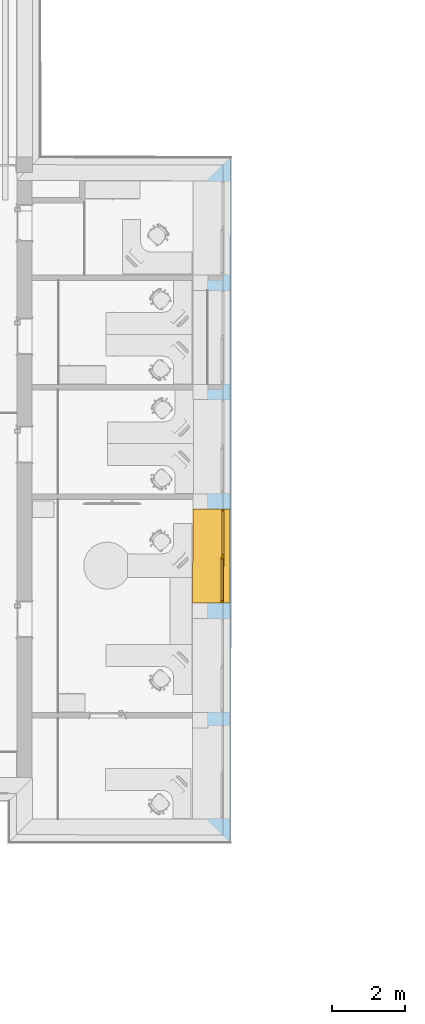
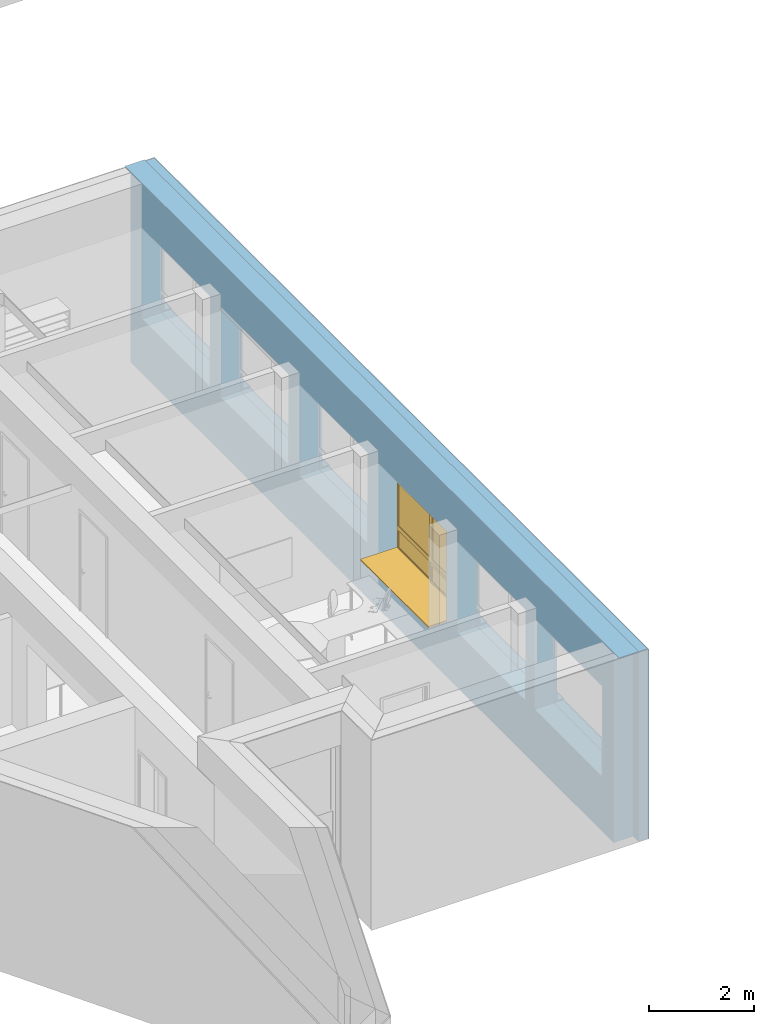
# One storey, part 78 of 194: 1 window, 6 openings, 1 element without a shape of its own, plus 3 elements that do not belong to this part.
"""IFC2X3 building model written with IfcOpenShell, lengths in millimetres."""

from ifc_helpers import new_model, entity, si_unit, converted_unit, derived_unit, money_unit, direction, frame, origin_with_axes, origin_2d_with_axis, place, context, subcontext, project, spatial, polyline, rectangle, outline, extrude, boolean, open_shell, faceted_brep, surface_model, material, type_object, element, fill, aggregate, save


model = new_model("IFC2X3")

# Units and contexts
model_context = context("Model", 3, precision=1e-05, world=origin_with_axes(), true_north=direction((0.0, 1.0)))
body_context = subcontext(model_context, "Body", "Model", "MODEL_VIEW")
ifc_project = project(units=[si_unit("LENGTHUNIT", "METRE", prefix="MILLI"), si_unit("AREAUNIT", "SQUARE_METRE"), si_unit("VOLUMEUNIT", "CUBIC_METRE"), converted_unit("PLANEANGLEUNIT", "DEGREE", entity("IfcPlaneAngleMeasure", 0.0174532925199), si_unit("PLANEANGLEUNIT", "RADIAN"), dimensions=[0, 0, 0, 0, 0, 0, 0]), si_unit("SOLIDANGLEUNIT", "STERADIAN"), money_unit("EUR"), converted_unit("TIMEUNIT", "Year", entity("IfcTimeMeasure", 31556926.0), si_unit("TIMEUNIT", "SECOND"), dimensions=[0, 0, 1, 0, 0, 0, 0]), si_unit("MASSUNIT", "GRAM", prefix="KILO"), si_unit("THERMODYNAMICTEMPERATUREUNIT", "DEGREE_CELSIUS"), si_unit("LUMINOUSINTENSITYUNIT", "LUMEN"), si_unit("ENERGYUNIT", "JOULE", prefix="MEGA"), derived_unit("THERMALCONDUCTANCEUNIT", [(si_unit("POWERUNIT", "WATT"), 1), (si_unit("LENGTHUNIT", "METRE"), -1), (si_unit("THERMODYNAMICTEMPERATUREUNIT", "KELVIN"), -1)]), derived_unit("SPECIFICHEATCAPACITYUNIT", [(si_unit("ENERGYUNIT", "JOULE"), 1), (si_unit("MASSUNIT", "GRAM", prefix="KILO"), -1), (si_unit("THERMODYNAMICTEMPERATUREUNIT", "KELVIN"), -1)]), derived_unit("MASSDENSITYUNIT", [(si_unit("MASSUNIT", "GRAM", prefix="KILO"), 1), (si_unit("VOLUMEUNIT", "CUBIC_METRE"), -1)])], contexts=[model_context])

# Site, building, storey
site_placement = place(None, origin_with_axes())
site = spatial("IfcSite", under=ifc_project, at=site_placement, Name="Site", CompositionType="ELEMENT")
building_placement = place(site_placement, origin_with_axes())
building = spatial("IfcBuilding", under=site, at=building_placement, Name="Building", CompositionType="ELEMENT")
storey_placement = place(building_placement, frame((0.0, 0.0, 3000.0), z_axis=(0.0, 0.0, 1.0), x_axis=(1.0, 0.0, 0.0)))
storey = spatial("IfcBuildingStorey", under=building, at=storey_placement, Name="2 KORRUS", CompositionType="ELEMENT", Elevation=3000.0)

# Window
window_style = type_object("IfcWindowStyle", Name="A2   2\xa0580×2\xa0100", ConstructionType="NOTDEFINED", OperationType="USERDEFINED", ParameterTakesPrecedence=False, Sizeable=False)
wall_placement = place(storey_placement, frame((45388.6906963, 4389.96789684, -420.0), z_axis=(0.0, 0.0, 1.0), x_axis=(0.000555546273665, 0.999999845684, 0.0)))
opening_2_placement = place(wall_placement, frame((7639.96095485, 0.0, 1270.0), z_axis=(0.0, 0.0, 1.0), x_axis=(1.0, 0.0, 0.0)))
window_placement = place(opening_2_placement, frame((-1290.0, 0.0, 0.0), z_axis=(0.0, 0.0, 1.0), x_axis=(1.0, 0.0, 0.0)))
window = element("IfcWindow", 1, at=window_placement, inside=storey, type_object=window_style, Name="välisaken * Double Window 22", OverallHeight=2100.0, OverallWidth=2580.0, context=body_context, shape_type="SurfaceModel", body=[
    faceted_brep([(0.0, -20.0, 30.0), (0.0, -20.0, 5.0), (0.0, -220.0, 5.0), (0.0, -220.0, 19.5184441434), (2580.0, -20.0, 30.0), (2580.0, -20.0, 5.0), (2580.0, -220.0, 5.0), (2580.0, -220.0, 19.5184441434)], [[[0, 1, 2, 3]], [[4, 5, 1, 0]], [[2, 1, 5, 6]], [[3, 2, 6, 7]], [[4, 0, 3, 7]], [[7, 6, 5, 4]]]),
    faceted_brep([(0.0, -20.0, 0.0), (0.0, -220.0, 0.0), (0.0, -220.0, 5.0), (0.0, -20.0, 5.0), (2580.0, -20.0, 0.0), (2580.0, -220.0, 0.0), (2580.0, -220.0, 5.0), (2580.0, -20.0, 5.0)], [[[0, 1, 2, 3]], [[0, 4, 5, 1]], [[1, 5, 6, 2]], [[3, 2, 6, 7]], [[4, 0, 3, 7]], [[5, 4, 7, 6]]]),
    faceted_brep([(2580.0, 29.9999999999, 0.0), (2580.0, 430.0, 0.0), (2580.0, 430.0, 30.0), (2580.0, 29.9999999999, 30.0), (0.0, 30.0000000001, 0.0), (0.0, 430.0, 0.0), (0.0, 830.0, 0.0), (2580.0, 830.0, 0.0), (2580.0, 830.0, 30.0), (0.0, 830.0, 30.0), (0.0, 430.0, 30.0), (0.0, 30.0000000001, 30.0)], [[[0, 1, 2, 3]], [[0, 4, 5, 6, 7, 1]], [[1, 7, 8, 2]], [[3, 2, 8, 9, 10, 11]], [[4, 0, 3, 11]], [[5, 4, 11, 10]], [[6, 5, 10, 9]], [[7, 6, 9, 8]]]),
    faceted_brep([(24.9999999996, 30.0, 50.0), (0.0, 30.0000000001, 50.0), (0.0, 30.0000000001, 2050.0), (50.0000000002, 30.0000000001, 2050.0), (50.0000000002, 30.0000000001, 550.0), (50.0000000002, 30.0000000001, 475.0), (24.9999999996, 30.0, 475.0), (25.0000000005, 4.99999999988, 50.0), (49.9999999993, 5.0, 50.0), (50.0000000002, -20.0000000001, 50.0), (0.0, -20.0, 50.0), (0.0, -20.0, 2050.0), (50.0000000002, -20.0000000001, 2050.0), (50.0000000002, -20.0000000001, 550.0), (49.9999999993, 5.0, 475.0), (50.0000000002, -20.0000000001, 450.0), (49.9999999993, 5.0, 450.0), (25.0000000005, 4.99999999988, 475.0)], [[[0, 1, 2, 3, 4, 5, 6]], [[7, 8, 9, 10, 1, 0]], [[2, 1, 10, 11]], [[3, 2, 11, 12]], [[4, 3, 12, 13]], [[14, 5, 4, 13, 15, 16]], [[14, 17, 6, 5]], [[6, 17, 7, 0]], [[16, 8, 7, 17, 14]], [[16, 15, 9, 8]], [[13, 12, 11, 10, 9, 15]]]),
    faceted_brep([(1265.0, 30.0000000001, 475.0), (1240.0, 30.0, 475.0), (1240.0, 30.0, 550.0), (1240.0, 30.0, 2050.0), (1340.0, 30.0, 2050.0), (1340.0, 30.0, 550.0), (1340.0, 30.0, 450.0), (1340.0, 30.0, 50.0), (1265.0, 30.0000000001, 50.0), (1265.0, 5.0, 475.0), (1240.0, 4.99999999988, 475.0), (1240.0, 4.99999999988, 450.0), (1240.0, -20.0000000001, 450.0), (1240.0, -20.0000000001, 550.0), (1240.0, -20.0000000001, 2050.0), (1340.0, -20.0000000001, 2050.0), (1340.0, -20.0000000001, 550.0), (1340.0, -20.0000000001, 450.0), (1340.0, -20.0000000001, 50.0), (1265.0, 5.0, 50.0), (1240.0, -20.0000000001, 50.0), (1240.0, 4.99999999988, 50.0)], [[[0, 1, 2, 3, 4, 5, 6, 7, 8]], [[0, 9, 10, 1]], [[10, 11, 12, 13, 2, 1]], [[3, 2, 13, 14]], [[4, 3, 14, 15]], [[5, 4, 15, 16]], [[6, 5, 16, 17]], [[7, 6, 17, 18]], [[19, 8, 7, 18, 20, 21]], [[8, 19, 9, 0]], [[21, 11, 10, 9, 19]], [[21, 20, 12, 11]], [[12, 20, 18, 17, 16, 15, 14, 13]]]),
    faceted_brep([(50.0000000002, 30.0000000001, 475.0), (50.0000000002, 30.0000000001, 550.0), (1240.0, 30.0, 550.0), (1240.0, 30.0, 475.0), (49.9999999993, 5.0, 475.0), (49.9999999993, 5.0, 450.0), (50.0000000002, -20.0000000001, 450.0), (50.0000000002, -20.0000000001, 550.0), (1240.0, -20.0000000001, 550.0), (1240.0, 4.99999999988, 475.0), (1240.0, -20.0000000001, 450.0), (1240.0, 4.99999999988, 450.0)], [[[0, 1, 2, 3]], [[4, 5, 6, 7, 1, 0]], [[2, 1, 7, 8]], [[9, 3, 2, 8, 10, 11]], [[9, 4, 0, 3]], [[11, 5, 4, 9]], [[11, 10, 6, 5]], [[8, 7, 6, 10]]]),
    faceted_brep([(1240.0, 4.99999999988, 50.0), (1240.0, -20.0000000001, 50.0), (1340.0, -20.0000000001, 50.0), (1340.0, 30.0, 50.0), (1265.0, 30.0000000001, 50.0), (1265.0, 5.0, 50.0), (49.9999999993, 5.0, 50.0), (50.0000000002, -20.0000000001, 50.0), (0.0, -20.0, 50.0), (0.0, -20.0, 0.0), (2580.0, -20.0, 0.0), (2580.0, -20.0, 50.0), (2530.0, -20.0, 50.0), (2530.0, 30.0, 50.0), (24.9999999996, 30.0, 25.0), (1265.0, 30.0000000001, 25.0), (2580.0, 29.9999999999, 50.0), (2580.0, 29.9999999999, 0.0), (0.0, 30.0000000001, 0.0), (0.0, 30.0000000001, 50.0), (24.9999999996, 30.0, 50.0), (1265.0, 5.0, 25.0), (25.0000000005, 4.99999999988, 25.0), (25.0000000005, 4.99999999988, 50.0)], [[[0, 1, 2, 3, 4, 5]], [[6, 7, 1, 0]], [[8, 9, 10, 11, 12, 2, 1, 7]], [[13, 3, 2, 12]], [[14, 15, 4, 3, 13, 16, 17, 18, 19, 20]], [[15, 21, 5, 4]], [[5, 21, 22, 23, 6, 0]], [[23, 20, 19, 8, 7, 6]], [[19, 18, 9, 8]], [[18, 17, 10, 9]], [[17, 16, 11, 10]], [[16, 13, 12, 11]], [[14, 22, 21, 15]], [[23, 22, 14, 20]]]),
    faceted_brep([(2530.0, -20.0, 50.0), (2530.0, 30.0, 50.0), (2580.0, 29.9999999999, 50.0), (2580.0, -20.0, 50.0), (2530.0, -20.0, 450.0), (2530.0, 30.0, 450.0), (2530.0, 30.0, 550.0), (2530.0, 30.0, 2050.0), (2580.0, 29.9999999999, 2050.0), (2580.0, -20.0, 2050.0), (2530.0, -20.0, 2050.0), (2530.0, -20.0, 550.0)], [[[0, 1, 2, 3]], [[4, 5, 1, 0]], [[1, 5, 6, 7, 8, 2]], [[3, 2, 8, 9]], [[0, 3, 9, 10, 11, 4]], [[11, 6, 5, 4]], [[10, 7, 6, 11]], [[9, 8, 7, 10]]]),
    faceted_brep([(1340.0, -20.0000000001, 550.0), (1340.0, 30.0, 550.0), (1340.0, 30.0, 450.0), (1340.0, -20.0000000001, 450.0), (2530.0, -20.0, 550.0), (2530.0, 30.0, 550.0), (2530.0, 30.0, 450.0), (2530.0, -20.0, 450.0)], [[[0, 1, 2, 3]], [[4, 5, 1, 0]], [[1, 5, 6, 2]], [[3, 2, 6, 7]], [[0, 3, 7, 4]], [[7, 6, 5, 4]]]),
    faceted_brep([(1240.0, -20.0000000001, 2050.0), (1240.0, 30.0, 2050.0), (1340.0, 30.0, 2050.0), (1340.0, -20.0000000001, 2050.0), (50.0000000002, -20.0000000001, 2050.0), (50.0000000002, 30.0000000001, 2050.0), (0.0, 30.0000000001, 2050.0), (0.0, 30.0000000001, 2100.0), (2580.0, 29.9999999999, 2100.0), (2580.0, 29.9999999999, 2050.0), (2530.0, 30.0, 2050.0), (2530.0, -20.0, 2050.0), (2580.0, -20.0, 2050.0), (2580.0, -20.0, 2100.0), (0.0, -20.0, 2100.0), (0.0, -20.0, 2050.0)], [[[0, 1, 2, 3]], [[4, 5, 1, 0]], [[1, 5, 6, 7, 8, 9, 10, 2]], [[3, 2, 10, 11]], [[0, 3, 11, 12, 13, 14, 15, 4]], [[15, 6, 5, 4]], [[14, 7, 6, 15]], [[13, 8, 7, 14]], [[12, 9, 8, 13]], [[11, 10, 9, 12]]]),
    surface_model("IfcShellBasedSurfaceModel", [(50.0000000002, -4.99999999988, 550.0), (1240.0, -5.0, 550.0), (1240.0, -5.0, 2050.0), (50.0000000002, -4.99999999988, 2050.0)], [open_shell([[[0, 1, 2, 3]]])]),
    surface_model("IfcShellBasedSurfaceModel", [(49.9999999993, 15.0, 550.0), (49.9999999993, 15.0, 2050.0), (1240.0, 15.0000000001, 2050.0), (1240.0, 15.0000000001, 550.0)], [open_shell([[[0, 1, 2, 3]]])]),
    surface_model("IfcShellBasedSurfaceModel", [(1340.0, -4.99999999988, 550.0), (2530.0, -5.0, 550.0), (2530.0, -5.0, 2050.0), (1340.0, -4.99999999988, 2050.0)], [open_shell([[[0, 1, 2, 3]]])]),
    surface_model("IfcShellBasedSurfaceModel", [(1340.0, 15.0, 550.0), (1340.0, 15.0, 2050.0), (2530.0, 15.0, 2050.0), (2530.0, 15.0, 550.0)], [open_shell([[[0, 1, 2, 3]]])]),
    faceted_brep([(74.9999999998, 5.0, 425.0), (74.9999999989, 54.9999999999, 425.0), (24.9999999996, 54.9999999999, 425.0), (25.0000000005, 4.99999999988, 425.0), (74.9999999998, 5.0, 75.0), (74.9999999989, 54.9999999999, 75.0), (24.9999999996, 54.9999999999, 75.0), (25.0000000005, 4.99999999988, 75.0)], [[[0, 1, 2, 3]], [[4, 5, 1, 0]], [[1, 5, 6, 2]], [[3, 2, 6, 7]], [[0, 3, 7, 4]], [[7, 6, 5, 4]]]),
    faceted_brep([(1215.0, 5.00000000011, 75.0), (1215.0, 54.9999999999, 75.0), (1265.0, 54.9999999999, 75.0), (1265.0, 5.0, 75.0), (1215.0, 5.00000000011, 425.0), (1215.0, 54.9999999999, 425.0), (1265.0, 54.9999999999, 425.0), (1265.0, 5.0, 425.0)], [[[0, 1, 2, 3]], [[4, 5, 1, 0]], [[1, 5, 6, 2]], [[3, 2, 6, 7]], [[0, 3, 7, 4]], [[7, 6, 5, 4]]]),
    faceted_brep([(1265.0, 5.0, 25.0), (1265.0, 54.9999999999, 25.0), (1265.0, 54.9999999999, 75.0), (1265.0, 5.0, 75.0), (25.0000000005, 4.99999999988, 25.0), (24.9999999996, 54.9999999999, 25.0), (24.9999999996, 54.9999999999, 75.0), (74.9999999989, 54.9999999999, 75.0), (1215.0, 54.9999999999, 75.0), (1215.0, 5.00000000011, 75.0), (74.9999999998, 5.0, 75.0), (25.0000000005, 4.99999999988, 75.0)], [[[0, 1, 2, 3]], [[4, 5, 1, 0]], [[1, 5, 6, 7, 8, 2]], [[3, 2, 8, 9]], [[0, 3, 9, 10, 11, 4]], [[11, 6, 5, 4]], [[10, 7, 6, 11]], [[9, 8, 7, 10]]]),
    faceted_brep([(25.0000000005, 4.99999999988, 475.0), (24.9999999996, 54.9999999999, 475.0), (24.9999999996, 54.9999999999, 425.0), (25.0000000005, 4.99999999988, 425.0), (1265.0, 5.0, 475.0), (1265.0, 54.9999999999, 475.0), (1265.0, 54.9999999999, 425.0), (1215.0, 54.9999999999, 425.0), (74.9999999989, 54.9999999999, 425.0), (74.9999999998, 5.0, 425.0), (1215.0, 5.00000000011, 425.0), (1265.0, 5.0, 425.0)], [[[0, 1, 2, 3]], [[4, 5, 1, 0]], [[1, 5, 6, 7, 8, 2]], [[3, 2, 8, 9]], [[0, 3, 9, 10, 11, 4]], [[11, 6, 5, 4]], [[10, 7, 6, 11]], [[9, 8, 7, 10]]]),
    surface_model("IfcShellBasedSurfaceModel", [(75.0000000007, 20.0, 75.0), (1215.0, 20.0, 75.0), (1215.0, 20.0, 425.0), (75.0000000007, 20.0, 425.0)], [open_shell([[[0, 1, 2, 3]]])]),
    surface_model("IfcShellBasedSurfaceModel", [(75.0000000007, 40.0, 75.0), (75.0000000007, 40.0, 425.0), (1215.0, 40.0, 425.0), (1215.0, 40.0, 75.0)], [open_shell([[[0, 1, 2, 3]]])]),
    surface_model("IfcShellBasedSurfaceModel", [(1340.0, -4.99999999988, 50.0), (2530.0, -5.0, 50.0), (2530.0, -5.0, 450.0), (1340.0, -4.99999999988, 450.0)], [open_shell([[[0, 1, 2, 3]]])]),
    surface_model("IfcShellBasedSurfaceModel", [(1340.0, 15.0, 50.0), (1340.0, 15.0, 450.0), (2530.0, 15.0, 450.0), (2530.0, 15.0, 50.0)], [open_shell([[[0, 1, 2, 3]]])]),
])

# Wall, openings
wall_type = type_object("IfcWallType", Name="VS4", PredefinedType="NOTDEFINED")
wall = element("IfcWall", 2, at=wall_placement, inside=storey, type_object=wall_type, Name="VS4")
opening_1_placement = place(wall_placement, frame((1719.99240846, 0.0, 1270.0), z_axis=(0.0, 0.0, 1.0), x_axis=(1.0, 0.0, 0.0)))
element("IfcOpeningElement", 3, at=opening_1_placement, cuts=wall, Name="välisaken * Double Window 22", context=body_context, shape_type="SweptSolid", body=[
    extrude(rectangle(XDim=2580.0, YDim=2100.0, at=origin_2d_with_axis()), frame((9.09494701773e-10, -20.0, 1050.0), z_axis=(0.0, -1.0, 0.0), x_axis=(1.0, 0.0, 0.0)), (0.0, 0.0, -1.0), 1100.0),
    extrude(rectangle(XDim=2580.0, YDim=2100.0, at=origin_2d_with_axis()), frame((9.09494701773e-10, -20.0000000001, 1050.0), z_axis=(0.0, 1.0, 0.0), x_axis=(1.0, 0.0, 0.0)), (0.0, 0.0, -1.0), 850.0),
])
opening_2 = element("IfcOpeningElement", 4, at=opening_2_placement, cuts=wall, Name="välisaken * Double Window 22", context=body_context, shape_type="SweptSolid", body=[
    extrude(rectangle(XDim=2580.0, YDim=2100.0, at=origin_2d_with_axis()), frame((9.09494701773e-10, -19.9999999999, 1050.0), z_axis=(0.0, -1.0, 0.0), x_axis=(1.0, 0.0, 0.0)), (0.0, 0.0, -1.0), 1100.0),
    extrude(rectangle(XDim=2580.0, YDim=2100.0, at=origin_2d_with_axis()), frame((9.09494701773e-10, -20.0, 1050.0), z_axis=(0.0, 1.0, 0.0), x_axis=(1.0, 0.0, 0.0)), (0.0, 0.0, -1.0), 850.0),
])

fill(opening_2, window)

# Opening
opening_3_placement = place(wall_placement, frame((10639.9002006, -1.13686837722e-10, 1270.0), z_axis=(0.0, 0.0, 1.0), x_axis=(1.0, 0.0, 0.0)))
element("IfcOpeningElement", 5, at=opening_3_placement, cuts=wall, Name="välisaken * Double Window 22", context=body_context, shape_type="SweptSolid", body=[
    extrude(rectangle(XDim=2580.0, YDim=2100.0, at=origin_2d_with_axis()), frame((9.09494701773e-10, -19.9999999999, 1050.0), z_axis=(0.0, -1.0, 0.0), x_axis=(1.0, 0.0, 0.0)), (0.0, 0.0, -1.0), 1100.0),
    extrude(rectangle(XDim=2580.0, YDim=2100.0, at=origin_2d_with_axis()), frame((0.0, -20.0, 1050.0), z_axis=(0.0, 1.0, 0.0), x_axis=(1.0, 0.0, 0.0)), (0.0, 0.0, -1.0), 850.0),
])

opening_4_placement = place(wall_placement, frame((13639.8047206, -1.13686837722e-10, 1270.0), z_axis=(0.0, 0.0, 1.0), x_axis=(1.0, 0.0, 0.0)))
element("IfcOpeningElement", 6, at=opening_4_placement, cuts=wall, Name="välisaken * Double Window 22", context=body_context, shape_type="SweptSolid", body=[
    extrude(rectangle(XDim=2580.0, YDim=2100.0, at=origin_2d_with_axis()), frame((9.09494701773e-10, -19.9999999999, 1050.0), z_axis=(0.0, -1.0, 0.0), x_axis=(1.0, 0.0, 0.0)), (0.0, 0.0, -1.0), 1100.0),
    extrude(rectangle(XDim=2580.0, YDim=2100.0, at=origin_2d_with_axis()), frame((1.81898940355e-09, -20.0, 1050.0), z_axis=(0.0, 1.0, 0.0), x_axis=(1.0, 0.0, 0.0)), (0.0, 0.0, -1.0), 850.0),
])

opening_5_placement = place(wall_placement, frame((16639.9800092, 0.0, 1270.0), z_axis=(0.0, 0.0, 1.0), x_axis=(1.0, 0.0, 0.0)))
element("IfcOpeningElement", 7, at=opening_5_placement, cuts=wall, Name="välisaken * Double Window 22", context=body_context, shape_type="SweptSolid", body=[
    extrude(rectangle(XDim=2580.0, YDim=2100.0, at=origin_2d_with_axis()), frame((0.0, -20.0000000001, 1050.0), z_axis=(0.0, -1.0, 0.0), x_axis=(1.0, 0.0, 0.0)), (0.0, 0.0, -1.0), 1100.0),
    extrude(rectangle(XDim=2580.0, YDim=2100.0, at=origin_2d_with_axis()), frame((0.0, -20.0000000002, 1050.0), z_axis=(0.0, 1.0, 0.0), x_axis=(1.0, 0.0, 0.0)), (0.0, 0.0, -1.0), 850.0),
])

opening_6_placement = place(wall_placement, frame((4639.9161327, 0.0, 1270.0), z_axis=(0.0, 0.0, 1.0), x_axis=(1.0, 0.0, 0.0)))
element("IfcOpeningElement", 8, at=opening_6_placement, cuts=wall, Name="välisaken * Double Window 22", context=body_context, shape_type="SweptSolid", body=[
    extrude(rectangle(XDim=2580.0, YDim=2100.0, at=origin_2d_with_axis()), frame((9.09494701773e-10, -20.0, 1050.0), z_axis=(0.0, -1.0, 0.0), x_axis=(1.0, 0.0, 0.0)), (0.0, 0.0, -1.0), 1100.0),
    extrude(rectangle(XDim=2580.0, YDim=2100.0, at=origin_2d_with_axis()), frame((9.09494701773e-10, -20.0000000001, 1050.0), z_axis=(0.0, 1.0, 0.0), x_axis=(1.0, 0.0, 0.0)), (0.0, 0.0, -1.0), 850.0),
])

# Building element part
ifc_material_1 = material(Name="Tellis - Konstuktsioon")
building_element_part_1_placement = place(wall_placement, origin_with_axes())
building_element_part_1 = element("IfcBuildingElementPart", 9, at=building_element_part_1_placement, material=ifc_material_1, Name="Tellis - Konstuktsioon", context=body_context, shape_type="CSG", body=[
    boolean("DIFFERENCE", boolean("DIFFERENCE", boolean("DIFFERENCE", boolean("DIFFERENCE", boolean("DIFFERENCE", boolean("DIFFERENCE", extrude(outline(polyline([(-220.007591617, 0.0), (18579.9522338, 0.0), (18579.9522338, 430.0), (-220.007591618, 430.0), (-220.007591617, 0.0)])), origin_with_axes(), (0.0, 0.0, 1.0), 4420.0), faceted_brep([(0.0, 0.0, 4400.0), (-220.000000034, -1.13686837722e-10, 4400.0), (-220.007591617, 0.0, 0.0), (0.0, 1.13686837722e-10, 0.0), (-0.00759158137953, 430.0, 4400.0), (-220.007591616, 430.0, 4400.0), (-220.007591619, 430.0, 0.0), (-0.00759158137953, 430.0, 0.0)], [[[0, 1, 2, 3]], [[1, 0, 4, 5]], [[1, 5, 6, 2]], [[7, 3, 2, 6]], [[0, 3, 7, 4]], [[4, 7, 6, 5]]])), faceted_brep([(18579.9522338, 430.0, 4420.0), (18579.0005259, 0.0, 4420.0), (18579.9522338, 0.0, 4420.0), (18579.0005263, -9.09494701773e-10, 4400.0), (18579.9522348, 429.999999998, 4400.0), (18358.9999871, -2.27373675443e-10, 4400.0), (18358.9999871, -1.13686837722e-10, 0.0), (18579.9522338, 0.0, 0.0), (18579.9522338, 430.0, 0.0), (18359.951695, 430.0, 4400.0), (18359.951695, 430.0, 0.0)], [[[0, 1, 2]], [[3, 1, 0, 4]], [[5, 6, 7, 2, 1, 3]], [[4, 0, 2, 7, 8]], [[5, 3, 4, 9]], [[6, 5, 9, 10]], [[6, 10, 8, 7]], [[9, 4, 8, 10]]])), faceted_brep([(0.111082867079, -200.0, 1300.0), (18196.9295608, -200.0, 1300.0), (18196.9295608, -200.0, 3400.0), (0.111082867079, -200.0, 3400.0), (0.0345998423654, -62.3282756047, 1300.0), (18196.8474617, -52.2191024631, 1300.0), (18196.8474617, -52.2191024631, 3400.0), (0.0345998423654, -62.3282756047, 3400.0)], [[[0, 1, 2, 3]], [[1, 0, 4, 5]], [[2, 1, 5, 6]], [[3, 2, 6, 7]], [[0, 3, 7, 4]], [[5, 4, 7, 6]]])), faceted_brep([(-199.996469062, -200.0, 0.0), (-199.996469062, -200.0, 4400.0), (18558.5578221, -200.0, 4400.0), (18558.5578221, -200.0, 0.0), (18579.9522338, -200.0, 0.0), (18579.9522338, -200.0, 4420.0), (-220.007591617, -200.0, 4420.0), (-220.007591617, -200.0, 0.0), (-200.000000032, 0.0, 0.0), (-200.000000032, -1.13686837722e-10, 4400.0), (18358.9999871, -2.27373675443e-10, 4400.0), (18559.0004769, 0.0, 4400.0), (18559.0004769, 0.0, 0.0), (18579.9522338, 0.0, 0.0), (18579.9522338, 0.0, 4420.0), (-220.007591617, 0.0, 4420.0), (-220.007591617, 0.0, 0.0)], [[[0, 1, 2, 3, 4, 5, 6, 7]], [[1, 0, 8, 9]], [[10, 11, 2, 1, 9]], [[3, 2, 11, 12]], [[3, 12, 13, 4]], [[5, 4, 13, 14]], [[15, 6, 5, 14]], [[15, 16, 7, 6]], [[8, 0, 7, 16]], [[9, 8, 16, 15, 14, 13, 12, 11, 10]]])), faceted_brep([(0.111082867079, -200.0, 1300.0), (0.111082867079, -200.0, 3400.0), (18196.9295608, -200.0, 3400.0), (18196.9295608, -200.0, 1300.0), (0.122193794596, -220.0, 1300.0), (0.122193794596, -220.0, 3400.0), (18196.9406717, -220.0, 3400.0), (18196.9406717, -220.0, 1300.0)], [[[0, 1, 2, 3]], [[4, 5, 1, 0]], [[5, 6, 2, 1]], [[6, 7, 3, 2]], [[7, 4, 0, 3]], [[4, 7, 6, 5]]])), faceted_brep([(-219.996115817, -220.0, 4400.0), (18558.5135566, -220.0, 4400.0), (18578.5136056, -220.0, 4400.0), (18578.5136056, -220.0, 0.0), (18579.9522338, -220.0, 0.0), (18579.9522338, -220.0, 4420.0), (-220.007591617, -220.0, 4420.0), (-220.007591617, -220.0, 0.0), (-219.996115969, -220.0, 0.0), (-219.996468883, -200.0, 4400.0), (18558.5578221, -200.0, 4400.0), (18578.5578711, -200.0, 4400.0), (18578.5578711, -200.0, 0.0), (18579.9522338, -200.0, 0.0), (18579.9522338, -200.0, 4420.0), (-220.007591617, -200.0, 4420.0), (-220.007591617, -200.0, 0.0), (-219.996469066, -200.0, 0.0)], [[[0, 1, 2, 3, 4, 5, 6, 7, 8]], [[2, 1, 0, 9, 10, 11]], [[3, 2, 11, 12]], [[3, 12, 13, 4]], [[5, 4, 13, 14]], [[15, 6, 5, 14]], [[15, 16, 7, 6]], [[17, 8, 7, 16]], [[0, 8, 17, 9]], [[9, 17, 16, 15, 14, 13, 12, 11, 10]]])),
])

ifc_material_2 = material(Name="Soojustus - Plastik Kõva")
building_element_part_2_placement = place(wall_placement, origin_with_axes())
building_element_part_2 = element("IfcBuildingElementPart", 10, at=building_element_part_2_placement, material=ifc_material_2, Name="Soojustus - Plastik Kõva", context=body_context, shape_type="CSG", body=[
    boolean("DIFFERENCE", boolean("DIFFERENCE", boolean("DIFFERENCE", boolean("DIFFERENCE", boolean("DIFFERENCE", boolean("DIFFERENCE", extrude(outline(polyline([(-220.007591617, -200.0), (18579.9522338, -200.0), (18579.9522338, 0.0), (-220.007591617, 0.0), (-220.007591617, -200.0)])), origin_with_axes(), (0.0, 0.0, 1.0), 4420.0), faceted_brep([(0.0, 0.0, 4400.0), (-220.000000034, -1.13686837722e-10, 4400.0), (-220.007591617, 0.0, 0.0), (0.0, 1.13686837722e-10, 0.0), (-0.00759158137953, 430.0, 4400.0), (-220.007591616, 430.0, 4400.0), (-220.007591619, 430.0, 0.0), (-0.00759158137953, 430.0, 0.0)], [[[0, 1, 2, 3]], [[1, 0, 4, 5]], [[1, 5, 6, 2]], [[7, 3, 2, 6]], [[0, 3, 7, 4]], [[4, 7, 6, 5]]])), faceted_brep([(18579.9522338, 430.0, 4420.0), (18579.0005259, 0.0, 4420.0), (18579.9522338, 0.0, 4420.0), (18579.0005263, -9.09494701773e-10, 4400.0), (18579.9522348, 429.999999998, 4400.0), (18358.9999871, -2.27373675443e-10, 4400.0), (18358.9999871, -1.13686837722e-10, 0.0), (18579.9522338, 0.0, 0.0), (18579.9522338, 430.0, 0.0), (18359.951695, 430.0, 4400.0), (18359.951695, 430.0, 0.0)], [[[0, 1, 2]], [[3, 1, 0, 4]], [[5, 6, 7, 2, 1, 3]], [[4, 0, 2, 7, 8]], [[5, 3, 4, 9]], [[6, 5, 9, 10]], [[6, 10, 8, 7]], [[9, 4, 8, 10]]])), faceted_brep([(0.111082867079, -200.0, 1300.0), (18196.9295608, -200.0, 1300.0), (18196.9295608, -200.0, 3400.0), (0.111082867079, -200.0, 3400.0), (0.0345998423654, -62.3282756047, 1300.0), (18196.8474617, -52.2191024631, 1300.0), (18196.8474617, -52.2191024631, 3400.0), (0.0345998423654, -62.3282756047, 3400.0)], [[[0, 1, 2, 3]], [[1, 0, 4, 5]], [[2, 1, 5, 6]], [[3, 2, 6, 7]], [[0, 3, 7, 4]], [[5, 4, 7, 6]]])), faceted_brep([(-199.996469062, -200.0, 0.0), (-199.996469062, -200.0, 4400.0), (18558.5578221, -200.0, 4400.0), (18558.5578221, -200.0, 0.0), (18579.9522338, -200.0, 0.0), (18579.9522338, -200.0, 4420.0), (-220.007591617, -200.0, 4420.0), (-220.007591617, -200.0, 0.0), (-200.000000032, 0.0, 0.0), (-200.000000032, -1.13686837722e-10, 4400.0), (18358.9999871, -2.27373675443e-10, 4400.0), (18559.0004769, 0.0, 4400.0), (18559.0004769, 0.0, 0.0), (18579.9522338, 0.0, 0.0), (18579.9522338, 0.0, 4420.0), (-220.007591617, 0.0, 4420.0), (-220.007591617, 0.0, 0.0)], [[[0, 1, 2, 3, 4, 5, 6, 7]], [[1, 0, 8, 9]], [[10, 11, 2, 1, 9]], [[3, 2, 11, 12]], [[3, 12, 13, 4]], [[5, 4, 13, 14]], [[15, 6, 5, 14]], [[15, 16, 7, 6]], [[8, 0, 7, 16]], [[9, 8, 16, 15, 14, 13, 12, 11, 10]]])), faceted_brep([(0.111082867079, -200.0, 1300.0), (0.111082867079, -200.0, 3400.0), (18196.9295608, -200.0, 3400.0), (18196.9295608, -200.0, 1300.0), (0.122193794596, -220.0, 1300.0), (0.122193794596, -220.0, 3400.0), (18196.9406717, -220.0, 3400.0), (18196.9406717, -220.0, 1300.0)], [[[0, 1, 2, 3]], [[4, 5, 1, 0]], [[5, 6, 2, 1]], [[6, 7, 3, 2]], [[7, 4, 0, 3]], [[4, 7, 6, 5]]])), faceted_brep([(-219.996115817, -220.0, 4400.0), (18558.5135566, -220.0, 4400.0), (18578.5136056, -220.0, 4400.0), (18578.5136056, -220.0, 0.0), (18579.9522338, -220.0, 0.0), (18579.9522338, -220.0, 4420.0), (-220.007591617, -220.0, 4420.0), (-220.007591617, -220.0, 0.0), (-219.996115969, -220.0, 0.0), (-219.996468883, -200.0, 4400.0), (18558.5578221, -200.0, 4400.0), (18578.5578711, -200.0, 4400.0), (18578.5578711, -200.0, 0.0), (18579.9522338, -200.0, 0.0), (18579.9522338, -200.0, 4420.0), (-220.007591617, -200.0, 4420.0), (-220.007591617, -200.0, 0.0), (-219.996469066, -200.0, 0.0)], [[[0, 1, 2, 3, 4, 5, 6, 7, 8]], [[2, 1, 0, 9, 10, 11]], [[3, 2, 11, 12]], [[3, 12, 13, 4]], [[5, 4, 13, 14]], [[15, 6, 5, 14]], [[15, 16, 7, 6]], [[17, 8, 7, 16]], [[0, 8, 17, 9]], [[9, 17, 16, 15, 14, 13, 12, 11, 10]]])),
])

ifc_material_3 = material(Name="Tellis - Viimistlus")
building_element_part_3_placement = place(wall_placement, origin_with_axes())
building_element_part_3 = element("IfcBuildingElementPart", 11, at=building_element_part_3_placement, material=ifc_material_3, Name="Tellis - Viimistlus", context=body_context, shape_type="CSG", body=[
    boolean("DIFFERENCE", boolean("DIFFERENCE", boolean("DIFFERENCE", boolean("DIFFERENCE", boolean("DIFFERENCE", boolean("DIFFERENCE", extrude(outline(polyline([(-220.007591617, -220.0), (18579.9522338, -220.0), (18579.9522338, -200.0), (-220.007591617, -200.0), (-220.007591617, -220.0)])), origin_with_axes(), (0.0, 0.0, 1.0), 4420.0), faceted_brep([(0.0, 0.0, 4400.0), (-220.000000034, -1.13686837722e-10, 4400.0), (-220.007591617, 0.0, 0.0), (0.0, 1.13686837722e-10, 0.0), (-0.00759158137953, 430.0, 4400.0), (-220.007591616, 430.0, 4400.0), (-220.007591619, 430.0, 0.0), (-0.00759158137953, 430.0, 0.0)], [[[0, 1, 2, 3]], [[1, 0, 4, 5]], [[1, 5, 6, 2]], [[7, 3, 2, 6]], [[0, 3, 7, 4]], [[4, 7, 6, 5]]])), faceted_brep([(18579.9522338, 430.0, 4420.0), (18579.0005259, 0.0, 4420.0), (18579.9522338, 0.0, 4420.0), (18579.0005263, -9.09494701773e-10, 4400.0), (18579.9522348, 429.999999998, 4400.0), (18358.9999871, -2.27373675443e-10, 4400.0), (18358.9999871, -1.13686837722e-10, 0.0), (18579.9522338, 0.0, 0.0), (18579.9522338, 430.0, 0.0), (18359.951695, 430.0, 4400.0), (18359.951695, 430.0, 0.0)], [[[0, 1, 2]], [[3, 1, 0, 4]], [[5, 6, 7, 2, 1, 3]], [[4, 0, 2, 7, 8]], [[5, 3, 4, 9]], [[6, 5, 9, 10]], [[6, 10, 8, 7]], [[9, 4, 8, 10]]])), faceted_brep([(0.111082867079, -200.0, 1300.0), (18196.9295608, -200.0, 1300.0), (18196.9295608, -200.0, 3400.0), (0.111082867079, -200.0, 3400.0), (0.0345998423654, -62.3282756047, 1300.0), (18196.8474617, -52.2191024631, 1300.0), (18196.8474617, -52.2191024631, 3400.0), (0.0345998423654, -62.3282756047, 3400.0)], [[[0, 1, 2, 3]], [[1, 0, 4, 5]], [[2, 1, 5, 6]], [[3, 2, 6, 7]], [[0, 3, 7, 4]], [[5, 4, 7, 6]]])), faceted_brep([(-199.996469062, -200.0, 0.0), (-199.996469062, -200.0, 4400.0), (18558.5578221, -200.0, 4400.0), (18558.5578221, -200.0, 0.0), (18579.9522338, -200.0, 0.0), (18579.9522338, -200.0, 4420.0), (-220.007591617, -200.0, 4420.0), (-220.007591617, -200.0, 0.0), (-200.000000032, 0.0, 0.0), (-200.000000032, -1.13686837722e-10, 4400.0), (18358.9999871, -2.27373675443e-10, 4400.0), (18559.0004769, 0.0, 4400.0), (18559.0004769, 0.0, 0.0), (18579.9522338, 0.0, 0.0), (18579.9522338, 0.0, 4420.0), (-220.007591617, 0.0, 4420.0), (-220.007591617, 0.0, 0.0)], [[[0, 1, 2, 3, 4, 5, 6, 7]], [[1, 0, 8, 9]], [[10, 11, 2, 1, 9]], [[3, 2, 11, 12]], [[3, 12, 13, 4]], [[5, 4, 13, 14]], [[15, 6, 5, 14]], [[15, 16, 7, 6]], [[8, 0, 7, 16]], [[9, 8, 16, 15, 14, 13, 12, 11, 10]]])), faceted_brep([(0.111082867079, -200.0, 1300.0), (0.111082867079, -200.0, 3400.0), (18196.9295608, -200.0, 3400.0), (18196.9295608, -200.0, 1300.0), (0.122193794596, -220.0, 1300.0), (0.122193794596, -220.0, 3400.0), (18196.9406717, -220.0, 3400.0), (18196.9406717, -220.0, 1300.0)], [[[0, 1, 2, 3]], [[4, 5, 1, 0]], [[5, 6, 2, 1]], [[6, 7, 3, 2]], [[7, 4, 0, 3]], [[4, 7, 6, 5]]])), faceted_brep([(-219.996115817, -220.0, 4400.0), (18558.5135566, -220.0, 4400.0), (18578.5136056, -220.0, 4400.0), (18578.5136056, -220.0, 0.0), (18579.9522338, -220.0, 0.0), (18579.9522338, -220.0, 4420.0), (-220.007591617, -220.0, 4420.0), (-220.007591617, -220.0, 0.0), (-219.996115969, -220.0, 0.0), (-219.996468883, -200.0, 4400.0), (18558.5578221, -200.0, 4400.0), (18578.5578711, -200.0, 4400.0), (18578.5578711, -200.0, 0.0), (18579.9522338, -200.0, 0.0), (18579.9522338, -200.0, 4420.0), (-220.007591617, -200.0, 4420.0), (-220.007591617, -200.0, 0.0), (-219.996469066, -200.0, 0.0)], [[[0, 1, 2, 3, 4, 5, 6, 7, 8]], [[2, 1, 0, 9, 10, 11]], [[3, 2, 11, 12]], [[3, 12, 13, 4]], [[5, 4, 13, 14]], [[15, 6, 5, 14]], [[15, 16, 7, 6]], [[17, 8, 7, 16]], [[0, 8, 17, 9]], [[9, 17, 16, 15, 14, 13, 12, 11, 10]]])),
])

aggregate(wall, [building_element_part_1, building_element_part_2, building_element_part_3])

save(model, "model.ifc")
